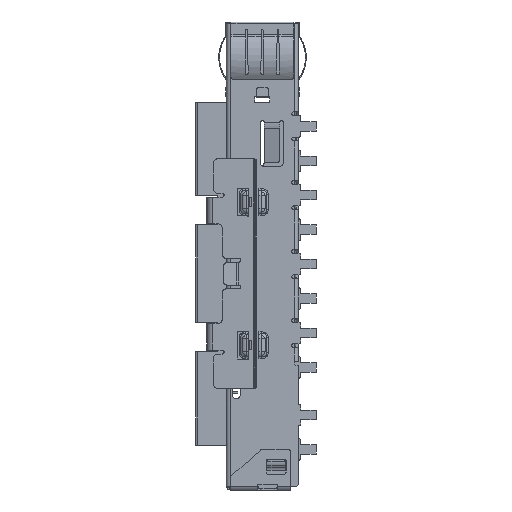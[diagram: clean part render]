
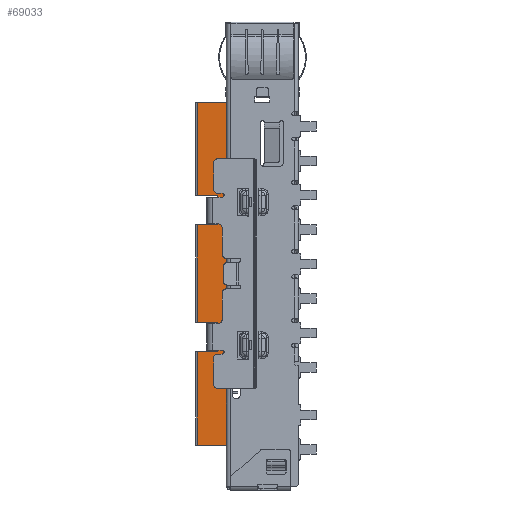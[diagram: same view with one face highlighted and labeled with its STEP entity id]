
A CAD part, left-side view. The second image highlights one B-rep face of the part: STEP entity #69033.
In plain terms, the highlighted planar face has unit normal (-1, 0, 0).
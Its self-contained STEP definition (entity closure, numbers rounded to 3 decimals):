
#2879=DIRECTION('',(0.,0.,1.));
#2880=VECTOR('',#2879,44.8);
#2881=CARTESIAN_POINT('',(-22.044,11.751,
-55.28));
#2882=LINE('',#2881,#2880);
#3022=DIRECTION('',(0.,1.,0.));
#3023=VECTOR('',#3022,3.8);
#3024=CARTESIAN_POINT('',(-22.044,11.751,
-10.48));
#3025=LINE('',#3024,#3023);
#22698=DIRECTION('',(0.,1.,0.));
#22699=VECTOR('',#22698,2.65);
#22700=CARTESIAN_POINT('',(-22.044,12.901,
-39.28));
#22701=LINE('',#22700,#22699);
#22702=DIRECTION('',(0.,-1.,0.));
#22703=VECTOR('',#22702,2.65);
#22704=CARTESIAN_POINT('',(-22.044,15.551,
-26.48));
#22705=LINE('',#22704,#22703);
#22706=DIRECTION('',(0.,1.,0.));
#22707=VECTOR('',#22706,2.65);
#22708=CARTESIAN_POINT('',(-22.044,12.901,
-22.68));
#22709=LINE('',#22708,#22707);
#22710=DIRECTION('',(0.,1.,0.));
#22711=VECTOR('',#22710,3.8);
#22712=CARTESIAN_POINT('',(-22.044,11.751,
-55.28));
#22713=LINE('',#22712,#22711);
#22714=DIRECTION('',(0.,-1.,0.));
#22715=VECTOR('',#22714,2.65);
#22716=CARTESIAN_POINT('',(-22.044,15.551,
-43.08));
#22717=LINE('',#22716,#22715);
#23198=DIRECTION('',(0.,0.,-1.));
#23199=VECTOR('',#23198,3.8);
#23200=CARTESIAN_POINT('',(-22.044,12.901,
-39.28));
#23201=LINE('',#23200,#23199);
#23458=DIRECTION('',(0.,0.,-1.));
#23459=VECTOR('',#23458,12.2);
#23460=CARTESIAN_POINT('',(-22.044,15.551,
-43.08));
#23461=LINE('',#23460,#23459);
#24318=DIRECTION('',(0.,0.,-1.));
#24319=VECTOR('',#24318,12.2);
#24320=CARTESIAN_POINT('',(-22.044,15.551,
-10.48));
#24321=LINE('',#24320,#24319);
#24322=DIRECTION('',(0.,0.,-1.));
#24323=VECTOR('',#24322,3.8);
#24324=CARTESIAN_POINT('',(-22.044,12.901,
-22.68));
#24325=LINE('',#24324,#24323);
#24586=DIRECTION('',(0.,0.,-1.));
#24587=VECTOR('',#24586,12.8);
#24588=CARTESIAN_POINT('',(-22.044,15.551,
-26.48));
#24589=LINE('',#24588,#24587);
#30626=CARTESIAN_POINT('',(-22.044,11.751,
-55.28));
#30627=VERTEX_POINT('',#30626);
#30628=CARTESIAN_POINT('',(-22.044,11.751,
-10.48));
#30629=VERTEX_POINT('',#30628);
#30782=CARTESIAN_POINT('',(-22.044,15.551,
-10.48));
#30783=VERTEX_POINT('',#30782);
#30898=CARTESIAN_POINT('',(-22.044,12.901,
-39.28));
#30899=CARTESIAN_POINT('',(-22.044,15.551,
-39.28));
#30900=VERTEX_POINT('',#30898);
#30901=VERTEX_POINT('',#30899);
#30902=CARTESIAN_POINT('',(-22.044,15.551,
-26.48));
#30903=VERTEX_POINT('',#30902);
#30904=CARTESIAN_POINT('',(-22.044,12.901,
-26.48));
#30905=VERTEX_POINT('',#30904);
#30906=CARTESIAN_POINT('',(-22.044,12.901,
-22.68));
#30907=VERTEX_POINT('',#30906);
#30908=CARTESIAN_POINT('',(-22.044,15.551,
-22.68));
#30909=VERTEX_POINT('',#30908);
#30910=CARTESIAN_POINT('',(-22.044,15.551,
-55.28));
#30911=VERTEX_POINT('',#30910);
#30912=CARTESIAN_POINT('',(-22.044,15.551,
-43.08));
#30913=VERTEX_POINT('',#30912);
#30914=CARTESIAN_POINT('',(-22.044,12.901,
-43.08));
#30915=VERTEX_POINT('',#30914);
#69005=CARTESIAN_POINT('',(-22.044,15.751,
-10.48));
#69006=DIRECTION('',(-1.,0.,0.));
#69007=DIRECTION('',(0.,-1.,0.));
#69008=AXIS2_PLACEMENT_3D('',#69005,#69006,#69007);
#69009=PLANE('',#69008);
#69011=ORIENTED_EDGE('',*,*,#69010,.T.);
#69013=ORIENTED_EDGE('',*,*,#69012,.F.);
#69015=ORIENTED_EDGE('',*,*,#69014,.T.);
#69017=ORIENTED_EDGE('',*,*,#69016,.F.);
#69019=ORIENTED_EDGE('',*,*,#69018,.T.);
#69021=ORIENTED_EDGE('',*,*,#69020,.F.);
#69022=ORIENTED_EDGE('',*,*,#39060,.F.);
#69023=ORIENTED_EDGE('',*,*,#38868,.F.);
#69024=ORIENTED_EDGE('',*,*,#39000,.T.);
#69026=ORIENTED_EDGE('',*,*,#69025,.F.);
#69028=ORIENTED_EDGE('',*,*,#69027,.T.);
#69030=ORIENTED_EDGE('',*,*,#69029,.F.);
#69031=EDGE_LOOP('',(#69011,#69013,#69015,#69017,#69019,#69021,#69022,#69023,
#69024,#69026,#69028,#69030));
#69032=FACE_OUTER_BOUND('',#69031,.F.);
#69033=ADVANCED_FACE('',(#69032),#69009,.T.);
#38868=EDGE_CURVE('',#30627,#30629,#2882,.T.);
#39000=EDGE_CURVE('',#30627,#30911,#22713,.T.);
#39060=EDGE_CURVE('',#30629,#30783,#3025,.T.);
#69010=EDGE_CURVE('',#30900,#30901,#22701,.T.);
#69012=EDGE_CURVE('',#30903,#30901,#24589,.T.);
#69014=EDGE_CURVE('',#30903,#30905,#22705,.T.);
#69016=EDGE_CURVE('',#30907,#30905,#24325,.T.);
#69018=EDGE_CURVE('',#30907,#30909,#22709,.T.);
#69020=EDGE_CURVE('',#30783,#30909,#24321,.T.);
#69025=EDGE_CURVE('',#30913,#30911,#23461,.T.);
#69027=EDGE_CURVE('',#30913,#30915,#22717,.T.);
#69029=EDGE_CURVE('',#30900,#30915,#23201,.T.);
